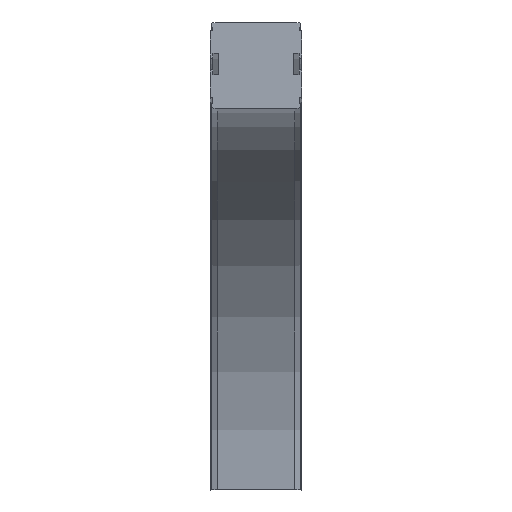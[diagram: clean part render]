
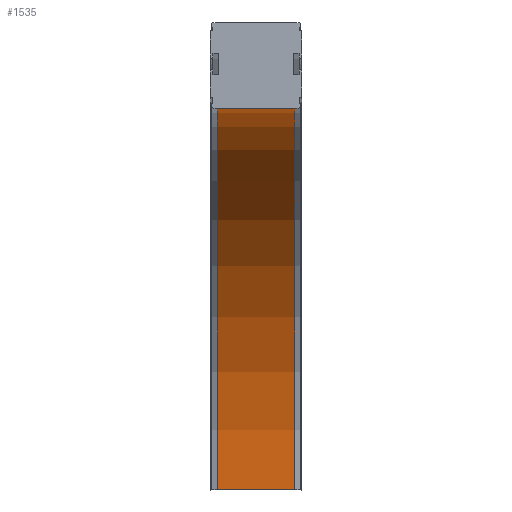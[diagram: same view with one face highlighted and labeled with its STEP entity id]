
A CAD part, left-side view. The second image highlights one B-rep face of the part: STEP entity #1535.
In plain terms, the highlighted cylindrical face has radius 358 mm (diameter 716 mm), a partial arc.
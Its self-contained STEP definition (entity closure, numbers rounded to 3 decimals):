
#1494=CARTESIAN_POINT('',(0.,-18.25,-439.5));
#1495=DIRECTION('',(0.0,1.0,0.0));
#1496=DIRECTION('',(0.0,0.0,1.0));
#1497=AXIS2_PLACEMENT_3D('',#1494,#1495,#1496);
#1498=CYLINDRICAL_SURFACE('',#1497,358.);
#1499=CARTESIAN_POINT('',(358.,36.5,-439.5));
#1500=VERTEX_POINT('',#1499);
#1501=CARTESIAN_POINT('',(358.,-36.5,-439.5));
#1502=VERTEX_POINT('',#1501);
#1503=CARTESIAN_POINT('',(358.,36.5,-439.5));
#1504=DIRECTION('',(0.0,-1.0,0.0));
#1505=VECTOR('',#1504,73.0);
#1506=LINE('',#1503,#1505);
#1507=EDGE_CURVE('',#1500,#1502,#1506,.T.);
#1508=ORIENTED_EDGE('',*,*,#1507,.T.);
#1509=CARTESIAN_POINT('',(0.0,-36.5,-81.5));
#1510=VERTEX_POINT('',#1509);
#1511=CARTESIAN_POINT('',(0.,-36.5,-439.5));
#1512=DIRECTION('',(0.0,1.0,0.0));
#1513=DIRECTION('',(0.0,0.0,1.0));
#1514=AXIS2_PLACEMENT_3D('',#1511,#1512,#1513);
#1515=CIRCLE('',#1514,358.);
#1516=EDGE_CURVE('',#1510,#1502,#1515,.T.);
#1517=ORIENTED_EDGE('',*,*,#1516,.F.);
#1518=CARTESIAN_POINT('',(0.0,36.5,-81.5));
#1519=VERTEX_POINT('',#1518);
#1520=CARTESIAN_POINT('',(0.0,-36.5,-81.5));
#1521=DIRECTION('',(0.0,1.0,0.0));
#1522=VECTOR('',#1521,73.0);
#1523=LINE('',#1520,#1522);
#1524=EDGE_CURVE('',#1510,#1519,#1523,.T.);
#1525=ORIENTED_EDGE('',*,*,#1524,.T.);
#1526=CARTESIAN_POINT('',(0.,36.5,-439.5));
#1527=DIRECTION('',(0.0,1.0,0.0));
#1528=DIRECTION('',(0.0,0.0,1.0));
#1529=AXIS2_PLACEMENT_3D('',#1526,#1527,#1528);
#1530=CIRCLE('',#1529,358.);
#1531=EDGE_CURVE('',#1519,#1500,#1530,.T.);
#1532=ORIENTED_EDGE('',*,*,#1531,.T.);
#1533=EDGE_LOOP('',(#1508,#1517,#1525,#1532));
#1534=FACE_OUTER_BOUND('',#1533,.T.);
#1535=ADVANCED_FACE('',(#1534),#1498,.F.);
